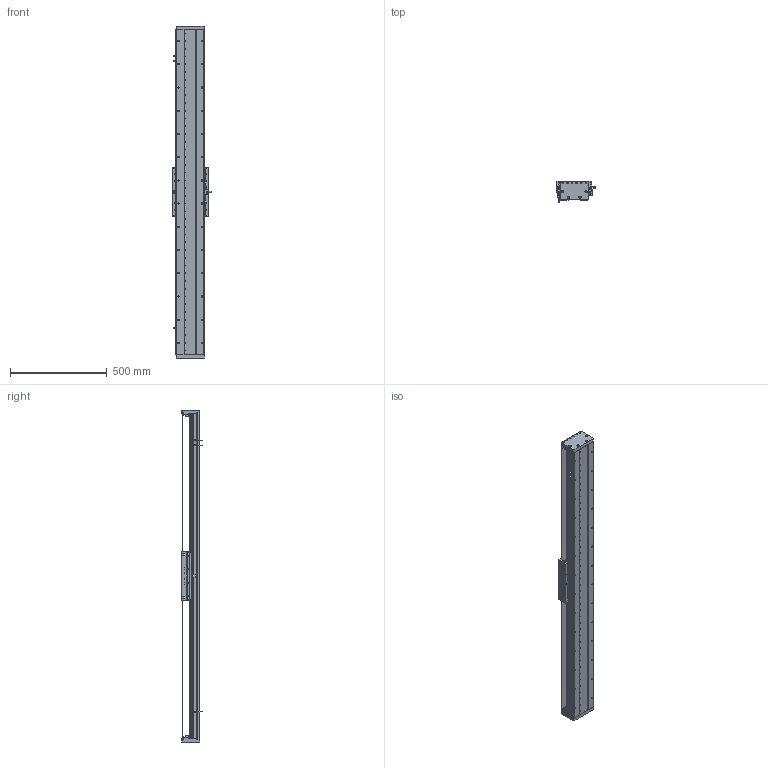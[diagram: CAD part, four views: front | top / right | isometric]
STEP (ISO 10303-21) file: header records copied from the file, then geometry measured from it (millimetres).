
FILE_DESCRIPTION (( 'STEP AP203' ), '1' );
FILE_NAME ('DA-C145-C3-T1380-C010-0.2 眻盄萇儂.STEP', '2025-08-14T01:23:43', ( '' ), ( '' ), 'SwSTEP 2.0', 'SolidWorks 2019', '' );
FILE_SCHEMA (( 'CONFIG_CONTROL_DESIGN' ));
Length unit declared in the file: millimetre
Products named in the file (32): 66245-CU145-HT-W-00 賑雄怢啣(3D芞祧)(00); 葩璃 DA95-GT-T-00^IU-CU145-L 菁釱絳寢; 复件 内六角平端紧定螺钉 GB.T77-2000 M5×10^CU145-W 滚珠滑台; 葩璃 XD-U-02L 棠掑喜^DA-C145-C3-T-C010-0.2; 葩璃 CKM03-W060-C1C2-TP-0.2^DA-C145-C3-T-C010-0.2; 复件 半圆头内六角螺钉 M3×6^CU145-W 滚珠滑台; CU145-W 幗紩賑怢; 复件 DA145-C3-YB-B-00 压板B^CU145-W 滚珠滑台; CU145-W-00 珨极趙賑雄怢啣; 复件 DA145-GYP-00 光电感应片^DA-C145-C3-T-C010-0.2; 葩璃 DMA-010-0.2 黍杅芛^DA-C145-C3-T-C010-0.2; DA-C145-C3-T1380-C010-0.2 眻盄萇儂; 复件 DA145 钢带^复件 CU145 钢带组件_DA-C145-C3-T-C010-0.2; 葩璃 CU145 詩湍郪璃^DA-C145-C3-T-C010-0.2; 复件 DA146 钢带拉块^复件 CU145 钢带组件_DA-C145-C3-T-C010-0.2; IU-CU145-L-00 菁釱(L1680); 葩璃 DA145-C3-DP-B-00 菜えB^CU145-W 幗紩賑怢; 复件 DA145-DG 钢带端盖^复件 CU145 钢带组件_DA-C145-C3-T-C010-0.2; 复件 DA145-C3-YB-A-00 压板A^CU145-W 滚珠滑台; 葩璃 CKMA01-W060-TRL^DA-C145-C3-T-C010-0.2; 葩璃 鞠褒情蹟譫 M3^DA-C145-C3-T-C010-0.2; 葩璃 DA145-C3-DP-A-00 菜えA^CU145-W 幗紩賑怢; TAY01-M8; 复件 DA95-DB-00  挡板^CU145-W 滚珠滑台; IU-CU145-L 菁釱絳寢; 葩璃 PM-T45^DA-C145-C3-T-C010-0.2; 复件 DA146 钢带垫块^复件 CU145 钢带组件_DA-C145-C3-T-C010-0.2; 复件 DA95-MFP-01 密封片^CU145-W 滚珠滑台; 葩璃 DA95-HXJ-00 遣喳砎蝶^DA-C145-C3-T-C010-0.2; 复件 DA145-C3-DK-00 挡块^CU145-W 滚珠滑台; 复件 纯铜油杯 6x6mm^CU145-W 滚珠滑台; 复件 DA95-HK-GT-00 滑块钢轨^CU145-W-00 一体化滑动台板
Assembly tree (103 placements, depth 4):
  DA-C145-C3-T1380-C010-0.2 眻盄萇儂
    IU-CU145-L 菁釱絳寢
      IU-CU145-L-00 菁釱(L1680)
      葩璃 DA95-GT-T-00^IU-CU145-L 菁釱絳寢  x4
    葩璃 CU145 詩湍郪璃^DA-C145-C3-T-C010-0.2
      复件 DA145-DG 钢带端盖^复件 CU145 钢带组件_DA-C145-C3-T-C010-0.2  x2
      复件 DA146 钢带拉块^复件 CU145 钢带组件_DA-C145-C3-T-C010-0.2  x2
      复件 DA146 钢带垫块^复件 CU145 钢带组件_DA-C145-C3-T-C010-0.2  x2
      复件 DA145 钢带^复件 CU145 钢带组件_DA-C145-C3-T-C010-0.2
    CU145-W 幗紩賑怢
      CU145-W-00 珨极趙賑雄怢啣
        66245-CU145-HT-W-00 賑雄怢啣(3D芞祧)(00)
        复件 DA95-HK-GT-00 滑块钢轨^CU145-W-00 一体化滑动台板  x8
      复件 DA95-MFP-01 密封片^CU145-W 滚珠滑台  x8
      复件 DA95-DB-00  挡板^CU145-W 滚珠滑台  x8
      复件 内六角平端紧定螺钉 GB.T77-2000 M5×10^CU145-W 滚珠滑台  x4
      复件 纯铜油杯 6x6mm^CU145-W 滚珠滑台  x4
      复件 半圆头内六角螺钉 M3×6^CU145-W 滚珠滑台  x16
      复件 DA145-C3-DK-00 挡块^CU145-W 滚珠滑台  x4
      葩璃 DA145-C3-DP-B-00 菜えB^CU145-W 幗紩賑怢  x2
      复件 DA145-C3-YB-B-00 压板B^CU145-W 滚珠滑台  x2
      葩璃 DA145-C3-DP-A-00 菜えA^CU145-W 幗紩賑怢  x3
      复件 DA145-C3-YB-A-00 压板A^CU145-W 滚珠滑台  x3
      TAY01-M8  x4
    葩璃 CKMA01-W060-TRL^DA-C145-C3-T-C010-0.2
    葩璃 PM-T45^DA-C145-C3-T-C010-0.2  x3
    葩璃 XD-U-02L 棠掑喜^DA-C145-C3-T-C010-0.2
    葩璃 DA95-HXJ-00 遣喳砎蝶^DA-C145-C3-T-C010-0.2  x4
    复件 DA145-GYP-00 光电感应片^DA-C145-C3-T-C010-0.2
    葩璃 DMA-010-0.2 黍杅芛^DA-C145-C3-T-C010-0.2
    葩璃 CKM03-W060-C1C2-TP-0.2^DA-C145-C3-T-C010-0.2
    葩璃 鞠褒情蹟譫 M3^DA-C145-C3-T-C010-0.2  x8
Bounding box: 203.5 x 108.45 x 1716 mm (x, y, z)
Volume: 8890260.3 mm3; surface area: 2850863.1 mm2
Topology: 99 solids, 131 shells, 4293 faces, 11756 edges, 7302 vertices
Faces by surface type: cylinder 1945, plane 1580, cone 690, torus 74, sphere 4
Entity records: 105834 total; most frequent: CARTESIAN_POINT 28734, ORIENTED_EDGE 15032, DIRECTION 14915, EDGE_CURVE 7516, AXIS2_PLACEMENT_3D 5586, VERTEX_POINT 4841, VECTOR 3743, LINE 3743
